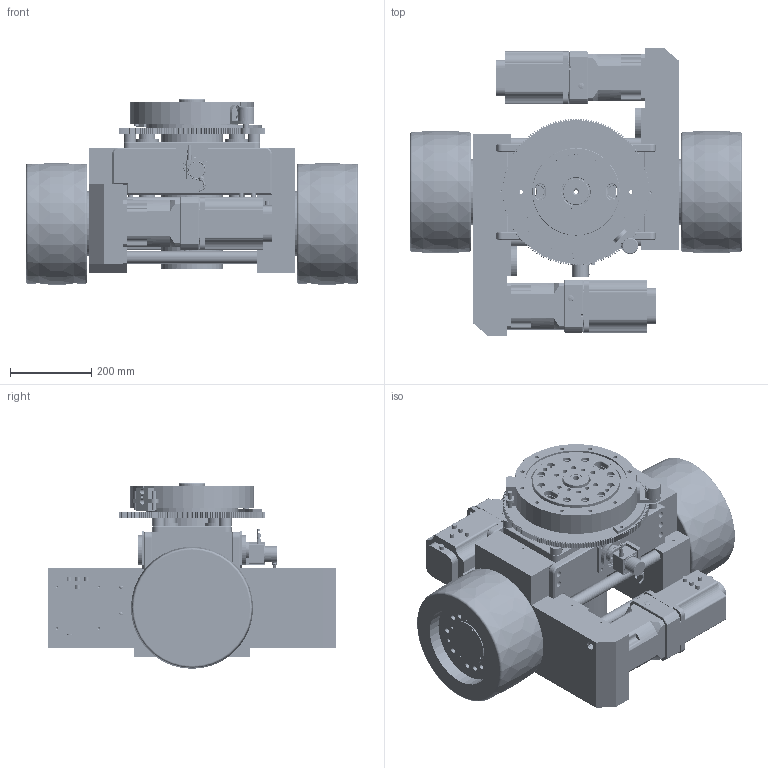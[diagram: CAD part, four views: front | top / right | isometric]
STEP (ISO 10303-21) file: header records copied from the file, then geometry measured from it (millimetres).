
FILE_DESCRIPTION(/* description */ (''),/* implementation_level */ '2;1');
FILE_NAME(/* name */ 'TYCD300-SM30030FA-Z-2.8x30 S180 10T D864 H450 EX-1.stp',/* time_stamp */ '2026-07-15T15:54:10+08:00',/* author */ (''),/* organization */ (''),/* preprocessor_version */ 'ST-DEVELOPER v20.1',/* originating_system */ 'SIEMENS PLM Software NX2512.3002',/* authorisation */ '');
FILE_SCHEMA (('AP203_CONFIGURATION_CONTROLLED_3D_DESIGN_OF_MECHANICAL_PARTS_AND_ASSEMBLIES_MIM_LF { 1 0 10303 403 2 1 2}'));
Products named in the file (48): 电机_ TY130EX-30030FE-Z-278.39.17-DZ-X(061); 减速机; TY300x150-160x100; TYCD350.24 密封盖; 轴承33212-d60-D110-H38-标准件; 轴承33211-d55-D100-H35-标准件; TYCD300NEW.23.轴承套; 20260623-05-03_ TYCD350.z15m5.59; 挡圈 GB_T 893_1-1986 85-标准件; 轴承-62209-ZZ-D45-D85-H23-标准件; TYCD400.09.端面法兰; 20260623-05-02_ TYCD300-钣金罩; 轴 D30x321; TYCD400.17.衬套 D52X9; TYCD400.从动齿轮Z28M5; 从动轮法兰.FL85x5; A500.20T.20  D45X67 从动轮轴; TYCD350.轮毂轴; TYCD350.12 大齿轮42M5-43; 20260623-05-01_ TYCD300-侧板; BRT位移座（济南二机定制）; 拉线传感器_ IP68 BRT38 0.5m&1m-EX; 20260623-03-01_ 侧板; 挡圈 GB_T 893_1-1986 65-标准件; 石墨铜套_ 45-65-25-标准件; TYCD350.22 旋转套; TYCD350.pu垫  D30 H20; 油缸（中间轴销）（双作用）1
25-85-180; 石墨铜套_ 40-48-60-标准件; TYCD350.14 导向套; TYCD350.13 导向板; 20260623-01-03_ TYCD350.06 Z178M2 法兰; 20260623-01-04_ 导柱轴40-240; 20260623-01-02_ TYCD350交叉滚子回转支承304x65
-10T; 20260623-01-01_ TYCD300-法兰; TYCD400.02.小齿轮Z10M2; TYCD350.10 编码器座; 接近开关_ HN2-M12H2L8-NA122; TYCD350.18 开关座; 20260623-05-00_MODEL_SUPPRESSEDCOMP336940ID ...
Assembly tree (78 placements, depth 3):
  TYCD300-SM30030FA-Z-2.8x30 S180 10T D864 H450 EX
    20260623-01-00_MODEL
      TYCD350.18 开关座
      接近开关_ HN2-M12H2L8-NA122  x2
      TYCD350.10 编码器座
      TYCD400.02.小齿轮Z10M2
      20260623-01-01_ TYCD300-法兰
      20260623-01-02_ TYCD350交叉滚子回转支承304x65
-10T
      20260623-01-04_ 导柱轴40-240  x4
      20260623-01-03_ TYCD350.06 Z178M2 法兰
    20260623-02-00_MODEL
      TYCD350.13 导向板
      TYCD350.14 导向套  x4
      石墨铜套_ 40-48-60-标准件  x4
      油缸（中间轴销）（双作用）1
25-85-180
      TYCD350.pu垫  D30 H20  x4
    20260623-03-00_MODEL  x2
      TYCD350.22 旋转套
      石墨铜套_ 45-65-25-标准件
      挡圈 GB_T 893_1-1986 65-标准件
      20260623-03-01_ 侧板
    20260623-04-00_MODEL
      拉线传感器_ IP68 BRT38 0.5m&1m-EX
      BRT位移座（济南二机定制）
    20260623-05-00_MODEL_SUPPRESSEDCOMP336941ID
      20260623-05-01_ TYCD300-侧板
      TYCD350.12 大齿轮42M5-43
      TYCD350.轮毂轴
      A500.20T.20  D45X67 从动轮轴
      从动轮法兰.FL85x5
      TYCD400.从动齿轮Z28M5
      TYCD400.17.衬套 D52X9
      轴 D30x321  x2
      20260623-05-02_ TYCD300-钣金罩
      TYCD400.09.端面法兰
      轴承-62209-ZZ-D45-D85-H23-标准件
      挡圈 GB_T 893_1-1986 85-标准件
      20260623-05-03_ TYCD350.z15m5.59
    20260623-06-00_MODEL  x2
      TYCD300NEW.23.轴承套
      轴承33211-d55-D100-H35-标准件
      轴承33212-d60-D110-H38-标准件
      TYCD350.24 密封盖
      TY300x150-160x100
    20260623-07-00_MODEL  x2
      减速机
      电机_ TY130EX-30030FE-Z-278.39.17-DZ-X(061)
    20260623-05-00_MODEL_SUPPRESSEDCOMP336940ID
      20260623-05-01_ TYCD300-侧板
      TYCD350.12 大齿轮42M5-43
      TYCD350.轮毂轴
      A500.20T.20  D45X67 从动轮轴
      从动轮法兰.FL85x5
      TYCD400.从动齿轮Z28M5
      TYCD400.17.衬套 D52X9
      轴 D30x321  x2
      20260623-05-02_ TYCD300-钣金罩
      TYCD400.09.端面法兰
      轴承-62209-ZZ-D45-D85-H23-标准件
      挡圈 GB_T 893_1-1986 85-标准件
Bounding box: 815 x 708 x 456 mm (x, y, z)
Volume: 54007815 mm3; surface area: 6494328.8 mm2
Topology: 120 solids, 134 shells, 5937 faces, 15831 edges, 10553 vertices
Faces by surface type: cylinder 3130, plane 1300, cone 965, extrusion 228, torus 146, bspline 121, sphere 47
Full cylindrical faces by diameter (mm): 1.5 x1, 2 x8, 2.5 x3, 2.8 x2, 2.9 x2, 3 x15, 3.2 x3, 3.8 x2, 4 x15, 4.2 x8, 5 x7, 5.1 x2, 5.2 x29, 5.5 x4, 6 x6, 6.2 x22, 6.75 x4, 6.8 x50, 7.2 x2, 7.5 x2, 8 x20, 8.2 x2, 8.5 x44, 8.7 x1, 9 x33, 10 x24, 10.2 x2, 10.3 x40, 10.5 x50, 11 x11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
Entity records: 133761 total; most frequent: CARTESIAN_POINT 32695, DIRECTION 21277, ORIENTED_EDGE 19560, EDGE_CURVE 9780, AXIS2_PLACEMENT_3D 9204, VERTEX_POINT 6965, EDGE_LOOP 5663, CIRCLE 5272
